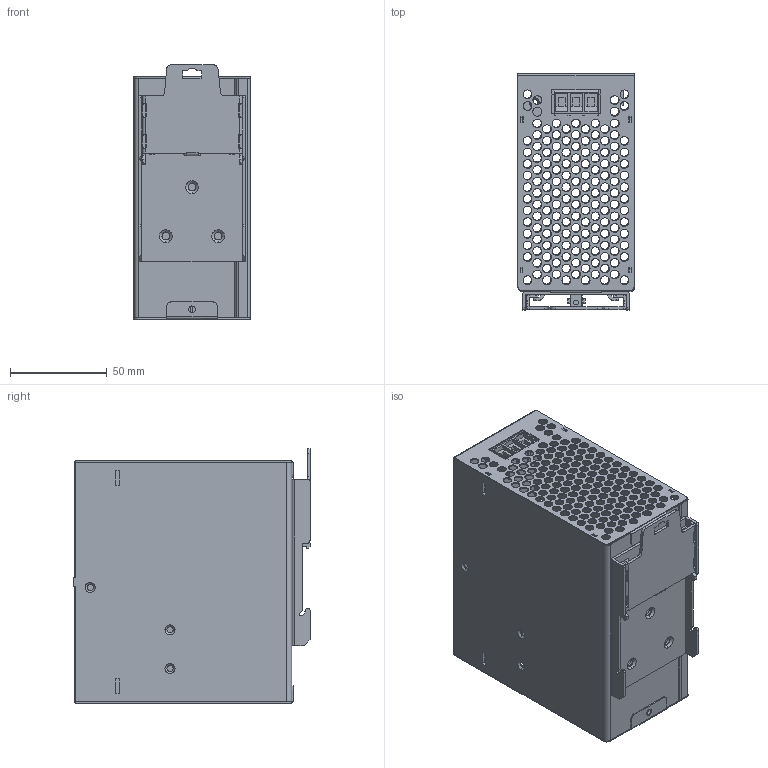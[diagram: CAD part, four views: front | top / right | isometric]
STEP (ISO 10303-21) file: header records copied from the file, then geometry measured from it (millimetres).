
FILE_DESCRIPTION (( 'STEP AP214' ), '1' );
FILE_NAME ('240W开关电源圆孔20240407.STEP', '2024-04-08T03:17:50', ( '微软用户' ), ( '微软中国' ), 'SwSTEP 2.0', 'SolidWorks 2020', '' );
FILE_SCHEMA (( 'AUTOMOTIVE_DESIGN' ));
Length unit declared in the file: millimetre
Products named in the file (10): 240W羲壽萇埭埴謂20240407; 240W______.stp-0.STEP.STEP; 湮縐諶.STEP; 240W-A啣20240407; 240W埴謂厙欶20240407; 楷嫖; 3弇傷赽; 240W______.stp.STEP.STEP; 4弇傷赽; 240W-B啣20240407
Assembly tree (9 placements, depth 3):
  240W羲壽萇埭埴謂20240407
    240W-B啣20240407
    240W-A啣20240407
    240W埴謂厙欶20240407
    3弇傷赽
    4弇傷赽
    楷嫖
    湮縐諶.STEP
      240W______.stp.STEP.STEP
      240W______.stp-0.STEP.STEP
Bounding box: 60 x 121.9 x 131.25 mm (x, y, z)
Volume: 90336.5 mm3; surface area: 140918.7 mm2
Topology: 8 solids, 8 shells, 1854 faces, 5283 edges, 3427 vertices
Faces by surface type: cylinder 1043, plane 765, cone 30, bspline 12, sphere 2, torus 2
Entity records: 62935 total; most frequent: DIRECTION 11095, CARTESIAN_POINT 10897, ORIENTED_EDGE 10558, EDGE_CURVE 5279, AXIS2_PLACEMENT_3D 4021, VERTEX_POINT 3425, VECTOR 3053, LINE 3053
